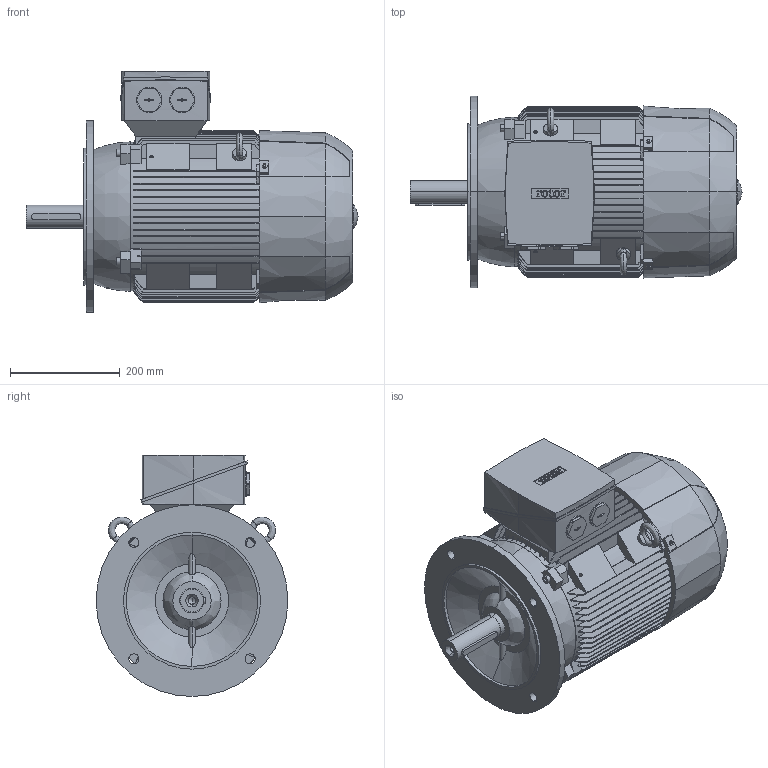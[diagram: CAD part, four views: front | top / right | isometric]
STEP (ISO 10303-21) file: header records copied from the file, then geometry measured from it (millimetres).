
FILE_DESCRIPTION (( 'STEP AP214' ), '1' );
FILE_NAME ('6RN160M06E12 IM3041.STEP', '2016-12-29T15:01:53', ( 'rbc_ict' ), ( 'Microsoft' ), 'SwSTEP 2.0', 'SolidWorks 2015', '' );
FILE_SCHEMA (( 'AUTOMOTIVE_DESIGN' ));
Length unit declared in the file: millimetre
Products named in the file (1): 6RN160M06E12 IM3041
Bounding box: 606 x 350 x 440 mm (x, y, z)
Volume: 34504703.2 mm3; surface area: 1406606.4 mm2
Topology: 1 solids, 1 shells, 907 faces, 2512 edges, 1655 vertices
Faces by surface type: plane 508, bspline 196, cylinder 177, cone 26
Entity records: 44506 total; most frequent: CARTESIAN_POINT 13963, ORIENTED_EDGE 5016, DIRECTION 3705, EDGE_CURVE 2508, VERTEX_POINT 1655, VECTOR 1335, LINE 1335, AXIS2_PLACEMENT_3D 1185
